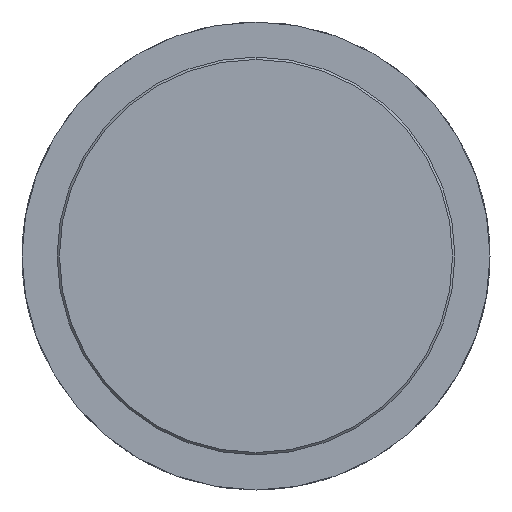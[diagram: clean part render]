
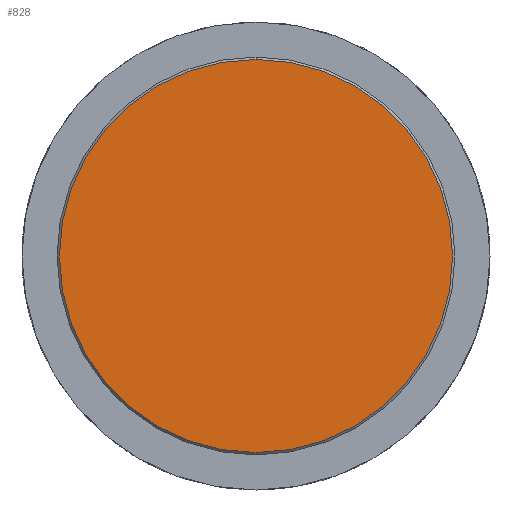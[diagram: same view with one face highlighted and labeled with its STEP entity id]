
A CAD part, front view. The second image highlights one B-rep face of the part: STEP entity #828.
In plain terms, the highlighted planar face has unit normal (0, -1, 0).
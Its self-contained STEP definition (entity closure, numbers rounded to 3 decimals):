
#403 = DIRECTION ( 'NONE',  ( 0., 0., -1. ) ) ;
#562 = DIRECTION ( 'NONE',  ( 0., 0., -1. ) ) ;
#828 = ADVANCED_FACE ( 'NONE', ( #3812 ), #1663, .T. ) ;
#1113 = AXIS2_PLACEMENT_3D ( 'NONE', #6631, #3036, #403 ) ;
#1142 = AXIS2_PLACEMENT_3D ( 'NONE', #4474, #2380, #4373 ) ;
#1542 = EDGE_CURVE ( 'NONE', #4736, #2015, #4423, .T. ) ;
#1599 = CARTESIAN_POINT ( 'NONE',  ( 0., 0., -8.4 ) ) ;
#1663 = PLANE ( 'NONE',  #1729 ) ;
#1729 = AXIS2_PLACEMENT_3D ( 'NONE', #4874, #4217, #562 ) ;
#2015 = VERTEX_POINT ( 'NONE', #1599 ) ;
#2380 = DIRECTION ( 'NONE',  ( 0., -1., 0. ) ) ;
#2721 = CARTESIAN_POINT ( 'NONE',  ( 0., 0., 8.4 ) ) ;
#3036 = DIRECTION ( 'NONE',  ( 0., -1., 0. ) ) ;
#3112 = EDGE_CURVE ( 'NONE', #2015, #4736, #4772, .T. ) ;
#3182 = ORIENTED_EDGE ( 'NONE', *, *, #1542, .T. ) ;
#3812 = FACE_OUTER_BOUND ( 'NONE', #4430, .T. ) ;
#4217 = DIRECTION ( 'NONE',  ( 0., -1., 0. ) ) ;
#4373 = DIRECTION ( 'NONE',  ( 0., 0., -1. ) ) ;
#4423 = CIRCLE ( 'NONE', #1113, 8.4 ) ;
#4430 = EDGE_LOOP ( 'NONE', ( #3182, #6135 ) ) ;
#4474 = CARTESIAN_POINT ( 'NONE',  ( 0., 0., 0. ) ) ;
#4736 = VERTEX_POINT ( 'NONE', #2721 ) ;
#4772 = CIRCLE ( 'NONE', #1142, 8.4 ) ;
#4874 = CARTESIAN_POINT ( 'NONE',  ( 0., 0., 0. ) ) ;
#6135 = ORIENTED_EDGE ( 'NONE', *, *, #3112, .T. ) ;
#6631 = CARTESIAN_POINT ( 'NONE',  ( 0., 0., 0. ) ) ;
